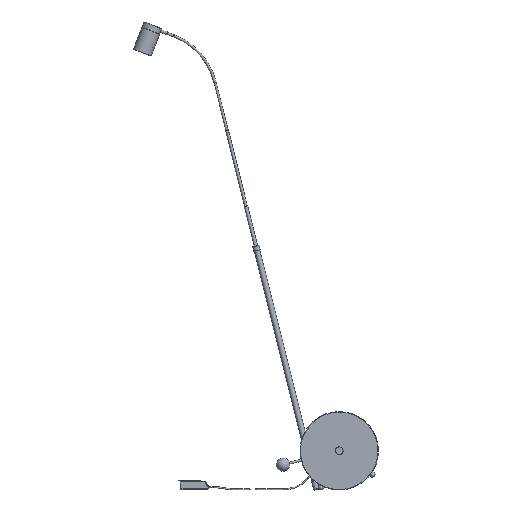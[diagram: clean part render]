
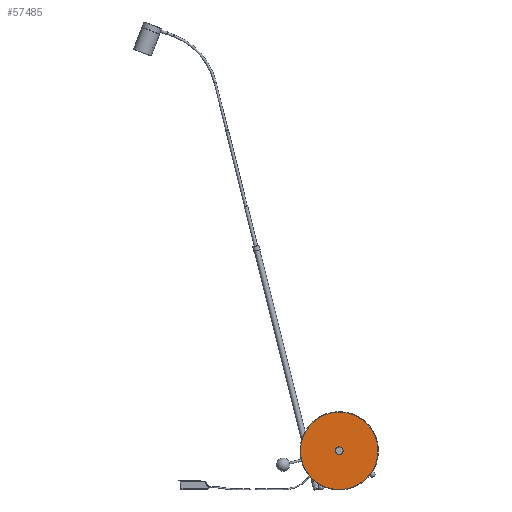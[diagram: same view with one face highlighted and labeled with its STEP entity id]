
A CAD part, left-side view. The second image highlights one B-rep face of the part: STEP entity #57485.
In plain terms, the highlighted planar face has unit normal (-1, 0, 0) as drawn and (1, 0, 0) by its records, which use the part's own axes.
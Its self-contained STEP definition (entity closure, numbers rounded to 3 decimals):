
#4023=FACE_BOUND('',#13163,.T.);
#5605=PLANE('',#63460);
#9615=FACE_OUTER_BOUND('',#13162,.T.);
#13162=EDGE_LOOP('',(#54133));
#13163=EDGE_LOOP('',(#54134));
#24540=CIRCLE('',#63451,17.5);
#24544=CIRCLE('',#63458,173.);
#29753=VERTEX_POINT('',#124221);
#29757=VERTEX_POINT('',#124234);
#37879=EDGE_CURVE('',#29753,#29753,#24540,.T.);
#37885=EDGE_CURVE('',#29757,#29757,#24544,.T.);
#54133=ORIENTED_EDGE('',*,*,#37885,.F.);
#54134=ORIENTED_EDGE('',*,*,#37879,.T.);
#57485=ADVANCED_FACE('',(#9615,#4023),#5605,.T.);
#63451=AXIS2_PLACEMENT_3D('',#124222,#78878,#78879);
#63458=AXIS2_PLACEMENT_3D('',#124235,#78894,#78895);
#63460=AXIS2_PLACEMENT_3D('',#124239,#78899,#78900);
#78878=DIRECTION('center_axis',(-1.,0.,0.));
#78879=DIRECTION('ref_axis',(0.,1.,0.));
#78894=DIRECTION('center_axis',(-1.,0.,0.));
#78895=DIRECTION('ref_axis',(0.,1.,0.));
#78899=DIRECTION('center_axis',(1.,0.,0.));
#78900=DIRECTION('ref_axis',(0.,1.,0.));
#124221=CARTESIAN_POINT('',(5.5,-17.5,0.));
#124222=CARTESIAN_POINT('Origin',(5.5,0.,0.));
#124234=CARTESIAN_POINT('',(5.5,-173.,0.));
#124235=CARTESIAN_POINT('Origin',(5.5,0.,0.));
#124239=CARTESIAN_POINT('Origin',(5.5,0.,0.));
